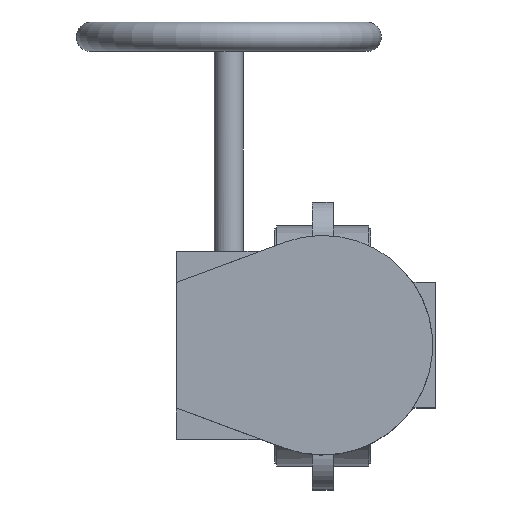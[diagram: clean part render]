
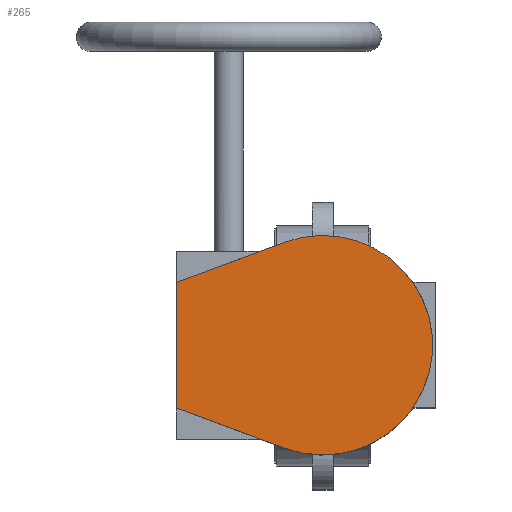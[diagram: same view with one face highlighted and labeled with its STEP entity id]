
A CAD part, top view. The second image highlights one B-rep face of the part: STEP entity #265.
In plain terms, the highlighted planar face has unit normal (0, 0, 1).
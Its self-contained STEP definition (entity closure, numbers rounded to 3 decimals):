
#265=ADVANCED_FACE('',(#6237),#6239,.T.);
#6237=FACE_BOUND('',#6238,.T.);
#6238=EDGE_LOOP('',(#10980,#10981,#10982,#10983));
#6239=PLANE('',#6240);
#6240=AXIS2_PLACEMENT_3D('',#6241,#6242,#6243);
#6241=CARTESIAN_POINT('',(0.,0.,240.));
#6242=DIRECTION('',(0.,0.,1.));
#6243=DIRECTION('',(0.,1.,0.));
#10980=ORIENTED_EDGE('',*,*,#14690,.T.);
#10981=ORIENTED_EDGE('',*,*,#14686,.T.);
#10982=ORIENTED_EDGE('',*,*,#14679,.T.);
#10983=ORIENTED_EDGE('',*,*,#14674,.T.);
#14674=EDGE_CURVE('',#16612,#16610,#16613,.T.);
#14679=EDGE_CURVE('',#16620,#16612,#16621,.T.);
#14686=EDGE_CURVE('',#16633,#16620,#16634,.T.);
#14690=EDGE_CURVE('',#16610,#16633,#16639,.T.);
#16610=VERTEX_POINT('',#19839);
#16612=VERTEX_POINT('',#19843);
#16613=LINE('',#19844,#19845);
#16620=VERTEX_POINT('',#19861);
#16621=LINE('',#19862,#19863);
#16633=VERTEX_POINT('',#19888);
#16634=LINE('',#19889,#19890);
#16639=CIRCLE('',#19902,52.5);
#19839=CARTESIAN_POINT('',(-18.284,-49.213,240.));
#19843=CARTESIAN_POINT('',(-70.,-30.,240.));
#19844=CARTESIAN_POINT('',(-70.,-30.,240.));
#19845=VECTOR('',#19846,1.);
#19846=DIRECTION('',(0.937,-0.348,0.));
#19861=CARTESIAN_POINT('',(-70.,30.,240.));
#19862=CARTESIAN_POINT('',(-70.,30.,240.));
#19863=VECTOR('',#19864,1.);
#19864=DIRECTION('',(0.,-1.,0.));
#19888=CARTESIAN_POINT('',(-18.284,49.213,240.));
#19889=CARTESIAN_POINT('',(-18.284,49.213,240.));
#19890=VECTOR('',#19891,1.);
#19891=DIRECTION('',(-0.937,-0.348,0.));
#19902=AXIS2_PLACEMENT_3D('',#19903,#19904,#19905);
#19903=CARTESIAN_POINT('',(0.,0.,240.));
#19904=DIRECTION('',(0.,0.,1.));
#19905=DIRECTION('',(-0.348,-0.937,0.));
